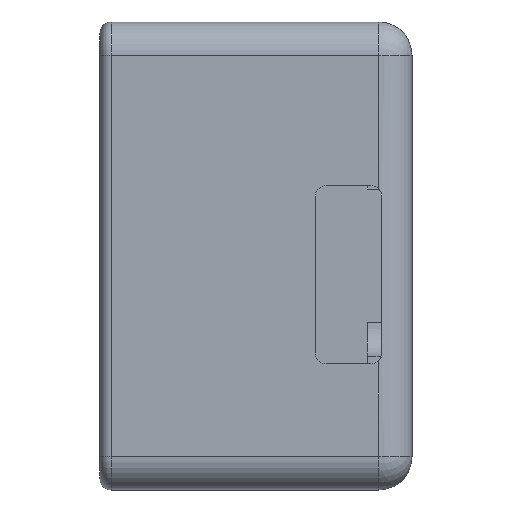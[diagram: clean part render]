
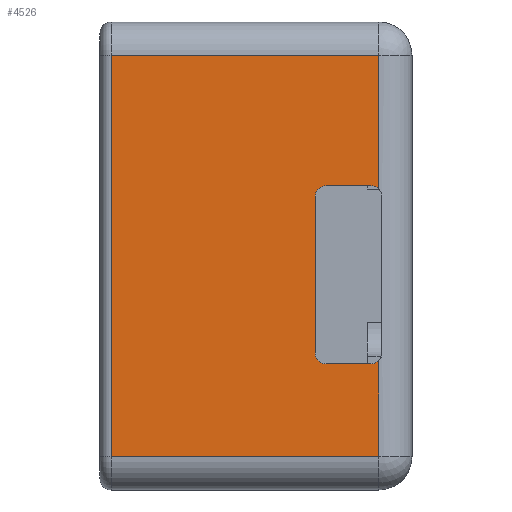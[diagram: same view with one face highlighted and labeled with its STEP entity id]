
A CAD part, left-side view. The second image highlights one B-rep face of the part: STEP entity #4526.
In plain terms, the highlighted planar face has unit normal (-1, 0, 0).
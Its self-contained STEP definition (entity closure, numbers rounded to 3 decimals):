
#969=CARTESIAN_POINT('',(-39.,3.7,5.317));
#970=DIRECTION('',(1.,0.,0.));
#971=DIRECTION('',(0.,0.,1.));
#972=AXIS2_PLACEMENT_3D('',#969,#970,#971);
#1554=DIRECTION('',(0.,1.,0.));
#1555=VECTOR('',#1554,4.);
#1556=CARTESIAN_POINT('',(-39.,3.7,-9.683));
#1557=LINE('',#1556,#1555);
#1558=DIRECTION('',(0.,-1.,0.));
#1559=VECTOR('',#1558,24.);
#1560=CARTESIAN_POINT('',(-39.,27.,-18.));
#1561=LINE('',#1560,#1559);
#1562=DIRECTION('',(0.,0.,1.));
#1563=VECTOR('',#1562,36.);
#1564=CARTESIAN_POINT('',(-39.,27.,-18.));
#1565=LINE('',#1564,#1563);
#1566=DIRECTION('',(0.,-1.,0.));
#1567=VECTOR('',#1566,24.);
#1568=CARTESIAN_POINT('',(-39.,27.,18.));
#1569=LINE('',#1568,#1567);
#1570=DIRECTION('',(0.,1.,0.));
#1571=VECTOR('',#1570,4.);
#1572=CARTESIAN_POINT('',(-39.,3.7,6.317));
#1573=LINE('',#1572,#1571);
#1574=DIRECTION('',(0.,0.,-1.));
#1575=VECTOR('',#1574,14.);
#1576=CARTESIAN_POINT('',(-39.,8.7,5.317));
#1577=LINE('',#1576,#1575);
#1586=CARTESIAN_POINT('',(-39.,7.7,-8.683));
#1587=DIRECTION('',(1.,0.,0.));
#1588=DIRECTION('',(0.,0.,-1.));
#1589=AXIS2_PLACEMENT_3D('',#1586,#1587,#1588);
#1604=CARTESIAN_POINT('',(-39.,7.7,5.317));
#1605=DIRECTION('',(1.,0.,0.));
#1606=DIRECTION('',(0.,1.,0.));
#1607=AXIS2_PLACEMENT_3D('',#1604,#1605,#1606);
#1627=CARTESIAN_POINT('',(-39.,3.,-9.397));
#1629=CARTESIAN_POINT('',(-39.,3.7,-8.683));
#1630=DIRECTION('',(1.,0.,0.));
#1631=DIRECTION('',(0.,-0.7,-0.714));
#1632=AXIS2_PLACEMENT_3D('',#1629,#1630,#1631);
#1638=DIRECTION('',(0.,0.,1.));
#1639=VECTOR('',#1638,11.969);
#1640=CARTESIAN_POINT('',(-39.,3.,6.031));
#1641=LINE('',#1640,#1639);
#1647=DIRECTION('',(0.,0.,1.));
#1648=VECTOR('',#1647,8.603);
#1649=CARTESIAN_POINT('',(-39.,3.,-18.));
#1650=LINE('',#1649,#1648);
#2398=CARTESIAN_POINT('',(-39.,3.,18.));
#2400=VERTEX_POINT('',#2398);
#2403=CARTESIAN_POINT('',(-39.,3.,-18.));
#2405=VERTEX_POINT('',#2403);
#2507=CARTESIAN_POINT('',(-39.,27.,-18.));
#2508=VERTEX_POINT('',#2507);
#2511=CARTESIAN_POINT('',(-39.,27.,18.));
#2512=VERTEX_POINT('',#2511);
#2575=CARTESIAN_POINT('',(-39.,7.7,-9.683));
#2577=VERTEX_POINT('',#2575);
#2579=CARTESIAN_POINT('',(-39.,8.7,-8.683));
#2581=VERTEX_POINT('',#2579);
#2587=CARTESIAN_POINT('',(-39.,3.7,-9.683));
#2589=VERTEX_POINT('',#2587);
#2595=CARTESIAN_POINT('',(-39.,3.7,6.317));
#2596=VERTEX_POINT('',#2595);
#2601=CARTESIAN_POINT('',(-39.,8.7,5.317));
#2603=VERTEX_POINT('',#2601);
#2605=CARTESIAN_POINT('',(-39.,7.7,6.317));
#2607=VERTEX_POINT('',#2605);
#2609=VERTEX_POINT('',#1627);
#2610=CARTESIAN_POINT('',(-39.,3.,6.031));
#2611=VERTEX_POINT('',#2610);
#4498=CARTESIAN_POINT('',(-39.,0.,-21.));
#4499=DIRECTION('',(-1.,0.,0.));
#4500=DIRECTION('',(0.,0.,1.));
#4501=AXIS2_PLACEMENT_3D('',#4498,#4499,#4500);
#4502=PLANE('',#4501);
#4504=ORIENTED_EDGE('',*,*,#4503,.F.);
#4506=ORIENTED_EDGE('',*,*,#4505,.F.);
#4508=ORIENTED_EDGE('',*,*,#4507,.F.);
#4510=ORIENTED_EDGE('',*,*,#4509,.F.);
#4511=ORIENTED_EDGE('',*,*,#4492,.T.);
#4512=ORIENTED_EDGE('',*,*,#3493,.T.);
#4514=ORIENTED_EDGE('',*,*,#4513,.F.);
#4515=ORIENTED_EDGE('',*,*,#3793,.F.);
#4517=ORIENTED_EDGE('',*,*,#4516,.T.);
#4519=ORIENTED_EDGE('',*,*,#4518,.F.);
#4521=ORIENTED_EDGE('',*,*,#4520,.T.);
#4523=ORIENTED_EDGE('',*,*,#4522,.F.);
#4524=EDGE_LOOP('',(#4504,#4506,#4508,#4510,#4511,#4512,#4514,#4515,#4517,#4519,
#4521,#4523));
#4525=FACE_OUTER_BOUND('',#4524,.F.);
#4526=ADVANCED_FACE('',(#4525),#4502,.T.);
#973=CIRCLE('',#972,1.);
#1590=CIRCLE('',#1589,1.);
#1608=CIRCLE('',#1607,1.);
#1633=CIRCLE('',#1632,1.);
#3493=EDGE_CURVE('',#2512,#2400,#1569,.T.);
#3793=EDGE_CURVE('',#2596,#2611,#973,.T.);
#4492=EDGE_CURVE('',#2508,#2512,#1565,.T.);
#4503=EDGE_CURVE('',#2589,#2577,#1557,.T.);
#4505=EDGE_CURVE('',#2609,#2589,#1633,.T.);
#4507=EDGE_CURVE('',#2405,#2609,#1650,.T.);
#4509=EDGE_CURVE('',#2508,#2405,#1561,.T.);
#4513=EDGE_CURVE('',#2611,#2400,#1641,.T.);
#4516=EDGE_CURVE('',#2596,#2607,#1573,.T.);
#4518=EDGE_CURVE('',#2603,#2607,#1608,.T.);
#4520=EDGE_CURVE('',#2603,#2581,#1577,.T.);
#4522=EDGE_CURVE('',#2577,#2581,#1590,.T.);
